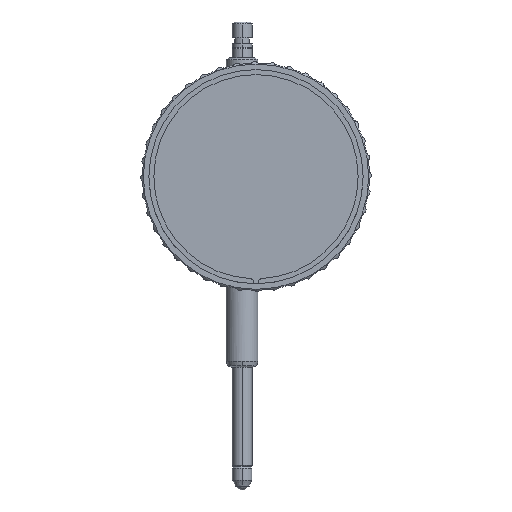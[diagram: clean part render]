
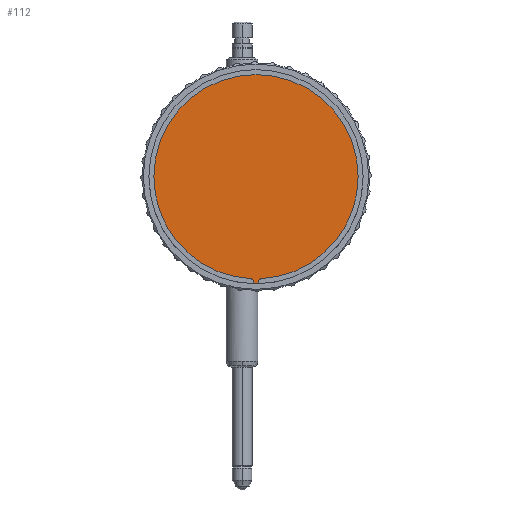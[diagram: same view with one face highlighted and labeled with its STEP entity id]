
A CAD part, front view. The second image highlights one B-rep face of the part: STEP entity #112.
In plain terms, the highlighted planar face has unit normal (0, -1, 0).
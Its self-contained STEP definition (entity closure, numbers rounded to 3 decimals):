
#112=ADVANCED_FACE('',(#543),#544,.F.);
#543=FACE_OUTER_BOUND('',#1301,.T.);
#544=PLANE('',#1302);
#1301=EDGE_LOOP('',(#2672,#2673,#2674,#2675,#2676,#2677,#2678,#2679));
#1302=AXIS2_PLACEMENT_3D('',#2680,#2681,#2682);
#2672=ORIENTED_EDGE('',*,*,#5537,.T.);
#2673=ORIENTED_EDGE('',*,*,#5574,.T.);
#2674=ORIENTED_EDGE('',*,*,#5575,.T.);
#2675=ORIENTED_EDGE('',*,*,#5576,.T.);
#2676=ORIENTED_EDGE('',*,*,#5543,.T.);
#2677=ORIENTED_EDGE('',*,*,#5551,.T.);
#2678=ORIENTED_EDGE('',*,*,#5571,.T.);
#2679=ORIENTED_EDGE('',*,*,#5549,.T.);
#2680=CARTESIAN_POINT('',(0.0,-13.8,0.0));
#2681=DIRECTION('',(0.0,1.0,0.0));
#2682=DIRECTION('',(-1.0,0.0,0.0));
#5537=EDGE_CURVE('',#7079,#7076,#7080,.T.);
#5543=EDGE_CURVE('',#7085,#7089,#7091,.T.);
#5549=EDGE_CURVE('',#7098,#7079,#7101,.T.);
#5551=EDGE_CURVE('',#7089,#7102,#7105,.T.);
#5571=EDGE_CURVE('',#7102,#7098,#7137,.T.);
#5574=EDGE_CURVE('',#7076,#7140,#7141,.T.);
#5575=EDGE_CURVE('',#7140,#7142,#7143,.T.);
#5576=EDGE_CURVE('',#7142,#7085,#7144,.T.);
#7076=VERTEX_POINT('',#10780);
#7079=VERTEX_POINT('',#10784);
#7080=CIRCLE('',#10785,0.875);
#7085=VERTEX_POINT('',#10791);
#7089=VERTEX_POINT('',#10796);
#7091=CIRCLE('',#10799,0.875);
#7098=VERTEX_POINT('',#10808);
#7101=CIRCLE('',#10812,25.75);
#7102=VERTEX_POINT('',#10813);
#7105=CIRCLE('',#10817,25.75);
#7137=CIRCLE('',#10857,25.75);
#7140=VERTEX_POINT('',#10860);
#7141=CIRCLE('',#10861,0.875);
#7142=VERTEX_POINT('',#10862);
#7143=CIRCLE('',#10863,27.0);
#7144=CIRCLE('',#10864,0.875);
#10780=CARTESIAN_POINT('',(-0.6,-13.8,-26.584));
#10784=CARTESIAN_POINT('',(-1.427,-13.8,-25.71));
#10785=AXIS2_PLACEMENT_3D('',#13879,#13880,#13881);
#10791=CARTESIAN_POINT('',(0.6,-13.8,-26.584));
#10796=CARTESIAN_POINT('',(1.427,-13.8,-25.71));
#10799=AXIS2_PLACEMENT_3D('',#13891,#13892,#13893);
#10808=CARTESIAN_POINT('',(-25.75,-13.8,0.));
#10812=AXIS2_PLACEMENT_3D('',#13903,#13904,#13905);
#10813=CARTESIAN_POINT('',(25.75,-13.8,0.));
#10817=AXIS2_PLACEMENT_3D('',#13907,#13908,#13909);
#10857=AXIS2_PLACEMENT_3D('',#13951,#13952,#13953);
#10860=CARTESIAN_POINT('',(-0.7,-13.8,-26.991));
#10861=AXIS2_PLACEMENT_3D('',#13960,#13961,#13962);
#10862=CARTESIAN_POINT('',(0.7,-13.8,-26.991));
#10863=AXIS2_PLACEMENT_3D('',#13963,#13964,#13965);
#10864=AXIS2_PLACEMENT_3D('',#13966,#13967,#13968);
#13879=CARTESIAN_POINT('',(-1.475,-13.8,-26.584));
#13880=DIRECTION('',(-0.0,1.0,0.0));
#13881=DIRECTION('',(1.0,0.0,0.0));
#13891=CARTESIAN_POINT('',(1.475,-13.8,-26.584));
#13892=DIRECTION('',(-0.0,1.0,0.0));
#13893=DIRECTION('',(1.0,0.0,0.0));
#13903=CARTESIAN_POINT('',(0.0,-13.8,0.0));
#13904=DIRECTION('',(0.0,-1.0,0.0));
#13905=DIRECTION('',(1.0,0.0,0.0));
#13907=CARTESIAN_POINT('',(0.0,-13.8,0.0));
#13908=DIRECTION('',(0.0,-1.0,0.0));
#13909=DIRECTION('',(1.0,0.0,0.0));
#13951=CARTESIAN_POINT('',(0.0,-13.8,0.0));
#13952=DIRECTION('',(0.0,-1.0,0.0));
#13953=DIRECTION('',(1.0,0.0,0.0));
#13960=CARTESIAN_POINT('',(-1.475,-13.8,-26.584));
#13961=DIRECTION('',(-0.0,1.0,0.0));
#13962=DIRECTION('',(1.0,0.0,0.0));
#13963=CARTESIAN_POINT('',(0.0,-13.8,0.0));
#13964=DIRECTION('',(0.0,-1.0,0.0));
#13965=DIRECTION('',(-1.0,0.0,0.0));
#13966=CARTESIAN_POINT('',(1.475,-13.8,-26.584));
#13967=DIRECTION('',(-0.0,1.0,0.0));
#13968=DIRECTION('',(1.0,0.0,0.0));
